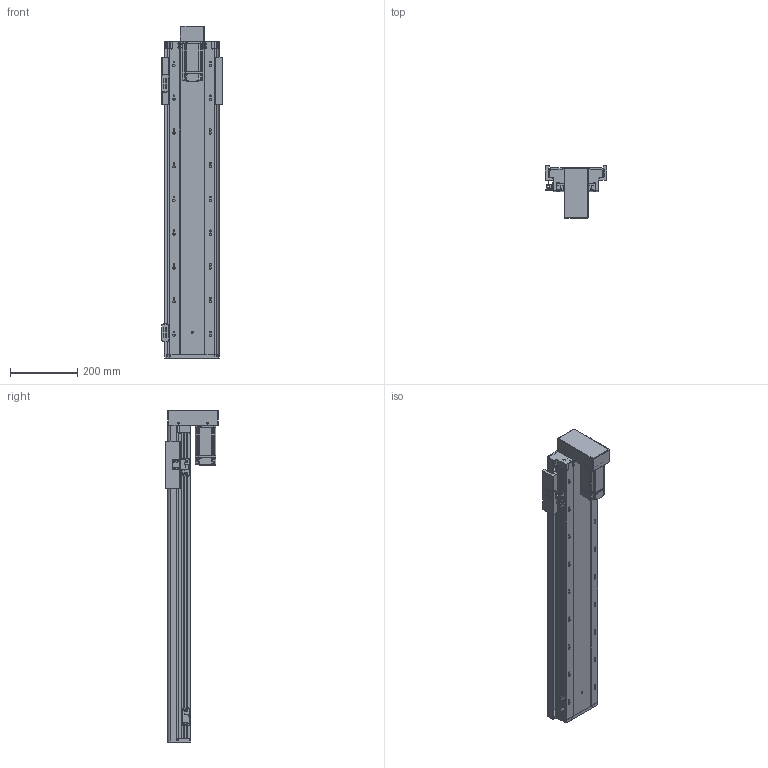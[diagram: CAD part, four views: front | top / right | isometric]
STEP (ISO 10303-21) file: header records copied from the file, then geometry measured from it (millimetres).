
FILE_DESCRIPTION (( 'STEP AP203' ), '1' );
FILE_NAME ('RY140FB-L2010-300-BK.SLDASM_700.step', '2021-02-23T02:28:57', ( '盈信电脑' ), ( '东莞市道滘镇水果街19号' ), 'SwSTEP 2.0', 'SolidWorks 2012', '' );
FILE_SCHEMA (( 'CONFIG_CONTROL_DESIGN' ));
Products named in the file (17): RY140FB-覜茼え; RY140FB-L2010-300-BK.SLDASM_700; 覜茼ん674; RY140-674嫖萇耀輸; RY140直线电机感应器674光电安装座; RY140狟殏萇儂欶; RY140FB-300蛌殏奻裔啣-BK_700; RY140FB-狟殏萇儂假蚾啣; RY140FB-20佪裝臏賑輸; 侂狟400W侜督萇儂; 15; 滅袉蝶18-10; RY140FB-转折电机端支撑座(7002); 滅袉蝶18-24; RY140FB-綴裔啣; RY140FB-300蛌殏倰第菁釱-BK_700
Assembly tree (20 placements, depth 3):
  RY140FB-L2010-300-BK.SLDASM_700
    RY140FB-300蛌殏倰第菁釱-BK_700
    RY140FB-綴裔啣
    滅袉蝶18-24  x2
    滅袉蝶18-10
    RY140FB-转折电机端支撑座(7002)
    侂狟400W侜督萇儂
      15
    RY140狟殏萇儂欶
    RY140FB-狟殏萇儂假蚾啣
    RY140FB-20佪裝臏賑輸
    RY140FB-300蛌殏奻裔啣-BK_700
    RY140-674嫖萇耀輸
      覜茼ん674  x2
      RY140直线电机感应器674光电安装座
    RY140-674嫖萇耀輸
      RY140直线电机感应器674光电安装座
      覜茼ん674
    RY140FB-覜茼え
Bounding box: 183 x 156 x 984 mm (x, y, z)
Volume: 3898867.2 mm3; surface area: 1277331.7 mm2
Topology: 17 solids, 17 shells, 1794 faces, 4937 edges, 3139 vertices
Faces by surface type: cylinder 877, plane 719, cone 170, bspline 28
Entity records: 54363 total; most frequent: CARTESIAN_POINT 11065, DIRECTION 8774, ORIENTED_EDGE 8582, EDGE_CURVE 4291, AXIS2_PLACEMENT_3D 3168, VERTEX_POINT 2807, VECTOR 2438, LINE 2438
